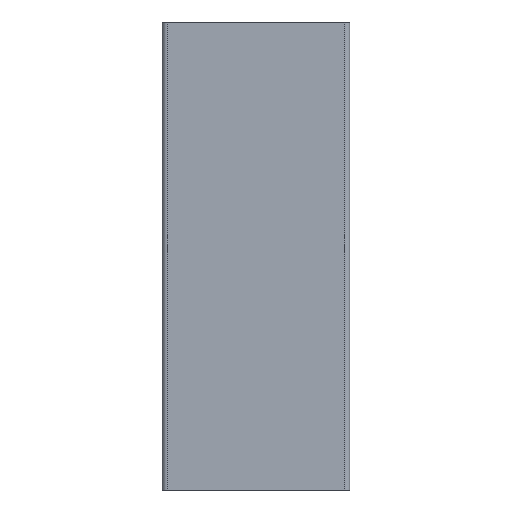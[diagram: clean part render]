
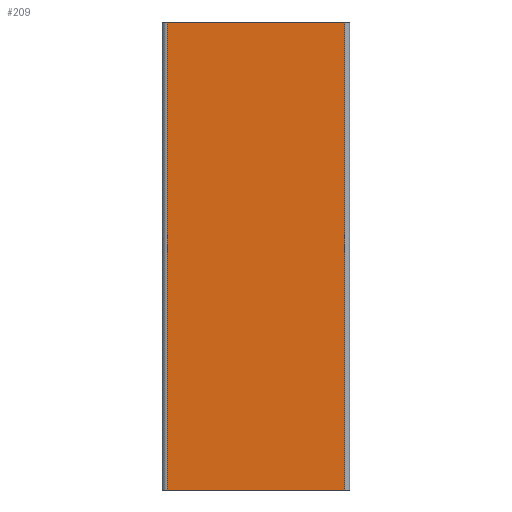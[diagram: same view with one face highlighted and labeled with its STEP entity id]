
A CAD part, front view. The second image highlights one B-rep face of the part: STEP entity #209.
In plain terms, the highlighted planar face has unit normal (0, -1, 0).
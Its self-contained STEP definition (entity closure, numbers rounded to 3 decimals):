
#170=CARTESIAN_POINT('',(0.,-20.,0.0));
#171=DIRECTION('',(0.0,-1.0,0.0));
#172=DIRECTION('',(0.0,0.0,1.0));
#173=AXIS2_PLACEMENT_3D('',#170,#171,#172);
#174=PLANE('',#173);
#175=CARTESIAN_POINT('',(19.,-20.,100.0));
#176=VERTEX_POINT('',#175);
#177=CARTESIAN_POINT('',(-19.,-20.,100.0));
#178=VERTEX_POINT('',#177);
#179=CARTESIAN_POINT('',(19.,-20.,100.0));
#180=DIRECTION('',(-1.0,0.0,0.0));
#181=VECTOR('',#180,38.);
#182=LINE('',#179,#181);
#183=EDGE_CURVE('',#176,#178,#182,.T.);
#184=ORIENTED_EDGE('',*,*,#183,.T.);
#185=CARTESIAN_POINT('',(-19.,-20.,0.0));
#186=VERTEX_POINT('',#185);
#187=CARTESIAN_POINT('',(-19.,-20.,0.0));
#188=DIRECTION('',(0.0,0.0,1.0));
#189=VECTOR('',#188,100.0);
#190=LINE('',#187,#189);
#191=EDGE_CURVE('',#186,#178,#190,.T.);
#192=ORIENTED_EDGE('',*,*,#191,.F.);
#193=CARTESIAN_POINT('',(19.,-20.,0.0));
#194=VERTEX_POINT('',#193);
#195=CARTESIAN_POINT('',(-19.,-20.,0.0));
#196=DIRECTION('',(1.0,0.0,0.0));
#197=VECTOR('',#196,38.);
#198=LINE('',#195,#197);
#199=EDGE_CURVE('',#186,#194,#198,.T.);
#200=ORIENTED_EDGE('',*,*,#199,.T.);
#201=CARTESIAN_POINT('',(19.,-20.,100.0));
#202=DIRECTION('',(0.0,0.0,-1.0));
#203=VECTOR('',#202,100.0);
#204=LINE('',#201,#203);
#205=EDGE_CURVE('',#176,#194,#204,.T.);
#206=ORIENTED_EDGE('',*,*,#205,.F.);
#207=EDGE_LOOP('',(#184,#192,#200,#206));
#208=FACE_OUTER_BOUND('',#207,.T.);
#209=ADVANCED_FACE('',(#208),#174,.T.);
